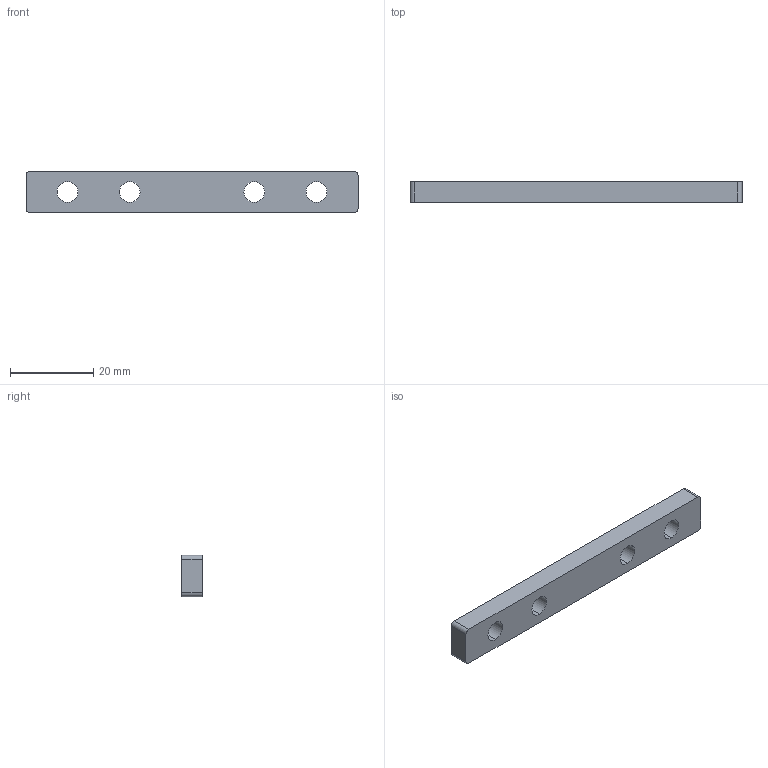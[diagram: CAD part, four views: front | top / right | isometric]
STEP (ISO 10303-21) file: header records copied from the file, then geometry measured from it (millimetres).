
FILE_DESCRIPTION (( 'STEP AP203' ), '1' );
FILE_NAME ('DLN-06.STEP', '2019-06-24T05:37:51', ( '' ), ( '' ), 'SwSTEP 2.0', 'SolidWorks 2012', '' );
FILE_SCHEMA (( 'CONFIG_CONTROL_DESIGN' ));
Length unit declared in the file: millimetre
Products named in the file (1): DLN-06
Bounding box: 80 x 5 x 10 mm (x, y, z)
Volume: 3603 mm3; surface area: 2646.8 mm2
Topology: 1 solids, 1 shells, 18 faces, 48 edges, 32 vertices
Faces by surface type: cylinder 12, plane 6
Entity records: 669 total; most frequent: DIRECTION 110, CARTESIAN_POINT 99, ORIENTED_EDGE 96, EDGE_CURVE 48, AXIS2_PLACEMENT_3D 43, VERTEX_POINT 32, EDGE_LOOP 26, CIRCLE 24
